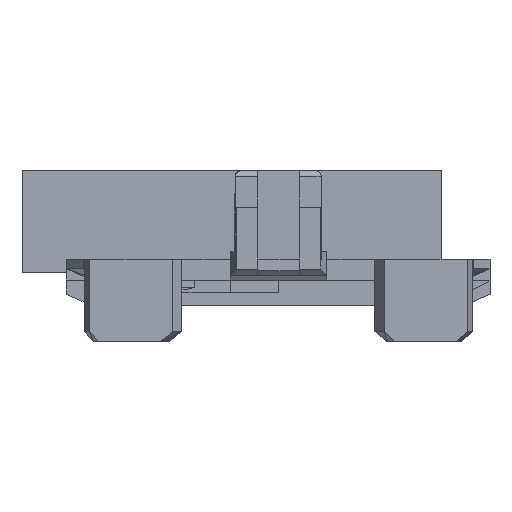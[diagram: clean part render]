
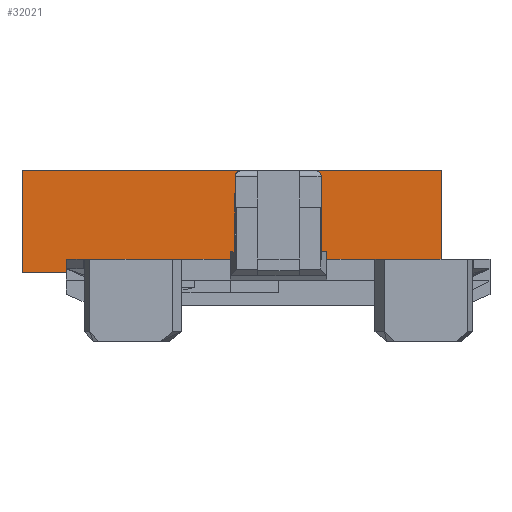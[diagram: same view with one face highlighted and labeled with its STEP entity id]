
A CAD part, left-side view. The second image highlights one B-rep face of the part: STEP entity #32021.
In plain terms, the highlighted planar face has unit normal (-1, 0, 0).
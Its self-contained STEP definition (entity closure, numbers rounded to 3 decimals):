
#32 = PLANE('',#33);
#33 = AXIS2_PLACEMENT_3D('',#34,#35,#36);
#34 = CARTESIAN_POINT('',(-40.,-25.,6.4));
#35 = DIRECTION('',(0.,0.,1.));
#36 = DIRECTION('',(1.,0.,-0.));
#1733 = PLANE('',#1734);
#1734 = AXIS2_PLACEMENT_3D('',#1735,#1736,#1737);
#1735 = CARTESIAN_POINT('',(9.042,16.475,5.37));
#1736 = DIRECTION('',(0.,1.,0.));
#1737 = DIRECTION('',(1.,0.,0.));
#1886 = VERTEX_POINT('',#1887);
#1887 = CARTESIAN_POINT('',(-8.758,-12.666,6.4));
#1901 = PLANE('',#1902);
#1902 = AXIS2_PLACEMENT_3D('',#1903,#1904,#1905);
#1903 = CARTESIAN_POINT('',(-8.758,-12.666,5.35));
#1904 = DIRECTION('',(-0.,1.,0.));
#1905 = DIRECTION('',(0.,0.,1.));
#1913 = EDGE_CURVE('',#1886,#1914,#1916,.T.);
#1914 = VERTEX_POINT('',#1915);
#1915 = CARTESIAN_POINT('',(-8.758,16.475,6.4));
#1916 = SURFACE_CURVE('',#1917,(#1921,#1928),.PCURVE_S1.);
#1917 = LINE('',#1918,#1919);
#1918 = CARTESIAN_POINT('',(-8.758,-12.666,6.4));
#1919 = VECTOR('',#1920,1.);
#1920 = DIRECTION('',(0.,1.,0.));
#1921 = PCURVE('',#32,#1922);
#1922 = DEFINITIONAL_REPRESENTATION('',(#1923),#1927);
#1923 = LINE('',#1924,#1925);
#1924 = CARTESIAN_POINT('',(31.242,12.334));
#1925 = VECTOR('',#1926,1.);
#1926 = DIRECTION('',(0.,1.));
#1927 = ( GEOMETRIC_REPRESENTATION_CONTEXT(2) 
PARAMETRIC_REPRESENTATION_CONTEXT() REPRESENTATION_CONTEXT('2D SPACE',''
  ) );
#1928 = PCURVE('',#1929,#1934);
#1929 = PLANE('',#1930);
#1930 = AXIS2_PLACEMENT_3D('',#1931,#1932,#1933);
#1931 = CARTESIAN_POINT('',(-8.758,-12.666,5.35));
#1932 = DIRECTION('',(1.,0.,-0.));
#1933 = DIRECTION('',(0.,0.,1.));
#1934 = DEFINITIONAL_REPRESENTATION('',(#1935),#1939);
#1935 = LINE('',#1936,#1937);
#1936 = CARTESIAN_POINT('',(1.05,0.));
#1937 = VECTOR('',#1938,1.);
#1938 = DIRECTION('',(0.,-1.));
#1939 = ( GEOMETRIC_REPRESENTATION_CONTEXT(2) 
PARAMETRIC_REPRESENTATION_CONTEXT() REPRESENTATION_CONTEXT('2D SPACE',''
  ) );
#28989 = PLANE('',#28990);
#28990 = AXIS2_PLACEMENT_3D('',#28991,#28992,#28993);
#28991 = CARTESIAN_POINT('',(-8.758,19.934,5.35));
#28992 = DIRECTION('',(-0.,1.,0.));
#28993 = DIRECTION('',(0.,0.,1.));
#29015 = PLANE('',#29016);
#29016 = AXIS2_PLACEMENT_3D('',#29017,#29018,#29019);
#29017 = CARTESIAN_POINT('',(-8.758,-12.666,13.3));
#29018 = DIRECTION('',(0.,0.,1.));
#29019 = DIRECTION('',(1.,0.,-0.));
#29030 = EDGE_CURVE('',#29031,#29033,#29035,.T.);
#29031 = VERTEX_POINT('',#29032);
#29032 = CARTESIAN_POINT('',(-8.758,-12.666,13.3));
#29033 = VERTEX_POINT('',#29034);
#29034 = CARTESIAN_POINT('',(-8.758,19.934,13.3));
#29035 = SURFACE_CURVE('',#29036,(#29040,#29047),.PCURVE_S1.);
#29036 = LINE('',#29037,#29038);
#29037 = CARTESIAN_POINT('',(-8.758,-12.666,13.3));
#29038 = VECTOR('',#29039,1.);
#29039 = DIRECTION('',(-0.,1.,0.));
#29040 = PCURVE('',#29015,#29041);
#29041 = DEFINITIONAL_REPRESENTATION('',(#29042),#29046);
#29042 = LINE('',#29043,#29044);
#29043 = CARTESIAN_POINT('',(0.,0.));
#29044 = VECTOR('',#29045,1.);
#29045 = DIRECTION('',(0.,1.));
#29046 = ( GEOMETRIC_REPRESENTATION_CONTEXT(2) 
PARAMETRIC_REPRESENTATION_CONTEXT() REPRESENTATION_CONTEXT('2D SPACE',''
  ) );
#29047 = PCURVE('',#1929,#29048);
#29048 = DEFINITIONAL_REPRESENTATION('',(#29049),#29053);
#29049 = LINE('',#29050,#29051);
#29050 = CARTESIAN_POINT('',(7.95,0.));
#29051 = VECTOR('',#29052,1.);
#29052 = DIRECTION('',(0.,-1.));
#29053 = ( GEOMETRIC_REPRESENTATION_CONTEXT(2) 
PARAMETRIC_REPRESENTATION_CONTEXT() REPRESENTATION_CONTEXT('2D SPACE',''
  ) );
#29210 = VERTEX_POINT('',#29211);
#29211 = CARTESIAN_POINT('',(-8.758,19.934,5.35));
#29225 = PLANE('',#29226);
#29226 = AXIS2_PLACEMENT_3D('',#29227,#29228,#29229);
#29227 = CARTESIAN_POINT('',(-8.758,-12.666,5.35));
#29228 = DIRECTION('',(0.,0.,1.));
#29229 = DIRECTION('',(1.,0.,-0.));
#29237 = EDGE_CURVE('',#29033,#29210,#29238,.T.);
#29238 = SURFACE_CURVE('',#29239,(#29243,#29250),.PCURVE_S1.);
#29239 = LINE('',#29240,#29241);
#29240 = CARTESIAN_POINT('',(-8.758,19.934,13.3));
#29241 = VECTOR('',#29242,1.);
#29242 = DIRECTION('',(0.,0.,-1.));
#29243 = PCURVE('',#28989,#29244);
#29244 = DEFINITIONAL_REPRESENTATION('',(#29245),#29249);
#29245 = LINE('',#29246,#29247);
#29246 = CARTESIAN_POINT('',(7.95,0.));
#29247 = VECTOR('',#29248,1.);
#29248 = DIRECTION('',(-1.,0.));
#29249 = ( GEOMETRIC_REPRESENTATION_CONTEXT(2) 
PARAMETRIC_REPRESENTATION_CONTEXT() REPRESENTATION_CONTEXT('2D SPACE',''
  ) );
#29250 = PCURVE('',#1929,#29251);
#29251 = DEFINITIONAL_REPRESENTATION('',(#29252),#29256);
#29252 = LINE('',#29253,#29254);
#29253 = CARTESIAN_POINT('',(7.95,-32.6));
#29254 = VECTOR('',#29255,1.);
#29255 = DIRECTION('',(-1.,0.));
#29256 = ( GEOMETRIC_REPRESENTATION_CONTEXT(2) 
PARAMETRIC_REPRESENTATION_CONTEXT() REPRESENTATION_CONTEXT('2D SPACE',''
  ) );
#29262 = EDGE_CURVE('',#29210,#29263,#29265,.T.);
#29263 = VERTEX_POINT('',#29264);
#29264 = CARTESIAN_POINT('',(-8.758,16.475,5.35));
#29265 = SURFACE_CURVE('',#29266,(#29270,#29277),.PCURVE_S1.);
#29266 = LINE('',#29267,#29268);
#29267 = CARTESIAN_POINT('',(-8.758,19.934,5.35));
#29268 = VECTOR('',#29269,1.);
#29269 = DIRECTION('',(0.,-1.,0.));
#29270 = PCURVE('',#29225,#29271);
#29271 = DEFINITIONAL_REPRESENTATION('',(#29272),#29276);
#29272 = LINE('',#29273,#29274);
#29273 = CARTESIAN_POINT('',(0.,32.6));
#29274 = VECTOR('',#29275,1.);
#29275 = DIRECTION('',(0.,-1.));
#29276 = ( GEOMETRIC_REPRESENTATION_CONTEXT(2) 
PARAMETRIC_REPRESENTATION_CONTEXT() REPRESENTATION_CONTEXT('2D SPACE',''
  ) );
#29277 = PCURVE('',#1929,#29278);
#29278 = DEFINITIONAL_REPRESENTATION('',(#29279),#29283);
#29279 = LINE('',#29280,#29281);
#29280 = CARTESIAN_POINT('',(0.,-32.6));
#29281 = VECTOR('',#29282,1.);
#29282 = DIRECTION('',(0.,1.));
#29283 = ( GEOMETRIC_REPRESENTATION_CONTEXT(2) 
PARAMETRIC_REPRESENTATION_CONTEXT() REPRESENTATION_CONTEXT('2D SPACE',''
  ) );
#32021 = ADVANCED_FACE('',(#32022),#1929,.F.);
#32022 = FACE_BOUND('',#32023,.F.);
#32023 = EDGE_LOOP('',(#32024,#32045,#32046,#32067,#32068,#32069));
#32024 = ORIENTED_EDGE('',*,*,#32025,.F.);
#32025 = EDGE_CURVE('',#1886,#29031,#32026,.T.);
#32026 = SURFACE_CURVE('',#32027,(#32031,#32038),.PCURVE_S1.);
#32027 = LINE('',#32028,#32029);
#32028 = CARTESIAN_POINT('',(-8.758,-12.666,5.4));
#32029 = VECTOR('',#32030,1.);
#32030 = DIRECTION('',(0.,0.,1.));
#32031 = PCURVE('',#1929,#32032);
#32032 = DEFINITIONAL_REPRESENTATION('',(#32033),#32037);
#32033 = LINE('',#32034,#32035);
#32034 = CARTESIAN_POINT('',(0.05,0.));
#32035 = VECTOR('',#32036,1.);
#32036 = DIRECTION('',(1.,0.));
#32037 = ( GEOMETRIC_REPRESENTATION_CONTEXT(2) 
PARAMETRIC_REPRESENTATION_CONTEXT() REPRESENTATION_CONTEXT('2D SPACE',''
  ) );
#32038 = PCURVE('',#1901,#32039);
#32039 = DEFINITIONAL_REPRESENTATION('',(#32040),#32044);
#32040 = LINE('',#32041,#32042);
#32041 = CARTESIAN_POINT('',(0.05,0.));
#32042 = VECTOR('',#32043,1.);
#32043 = DIRECTION('',(1.,0.));
#32044 = ( GEOMETRIC_REPRESENTATION_CONTEXT(2) 
PARAMETRIC_REPRESENTATION_CONTEXT() REPRESENTATION_CONTEXT('2D SPACE',''
  ) );
#32045 = ORIENTED_EDGE('',*,*,#1913,.T.);
#32046 = ORIENTED_EDGE('',*,*,#32047,.T.);
#32047 = EDGE_CURVE('',#1914,#29263,#32048,.T.);
#32048 = SURFACE_CURVE('',#32049,(#32053,#32060),.PCURVE_S1.);
#32049 = LINE('',#32050,#32051);
#32050 = CARTESIAN_POINT('',(-8.758,16.475,6.4));
#32051 = VECTOR('',#32052,1.);
#32052 = DIRECTION('',(0.,0.,-1.));
#32053 = PCURVE('',#1929,#32054);
#32054 = DEFINITIONAL_REPRESENTATION('',(#32055),#32059);
#32055 = LINE('',#32056,#32057);
#32056 = CARTESIAN_POINT('',(1.05,-29.141));
#32057 = VECTOR('',#32058,1.);
#32058 = DIRECTION('',(-1.,0.));
#32059 = ( GEOMETRIC_REPRESENTATION_CONTEXT(2) 
PARAMETRIC_REPRESENTATION_CONTEXT() REPRESENTATION_CONTEXT('2D SPACE',''
  ) );
#32060 = PCURVE('',#1733,#32061);
#32061 = DEFINITIONAL_REPRESENTATION('',(#32062),#32066);
#32062 = LINE('',#32063,#32064);
#32063 = CARTESIAN_POINT('',(-17.8,-1.03));
#32064 = VECTOR('',#32065,1.);
#32065 = DIRECTION('',(0.,1.));
#32066 = ( GEOMETRIC_REPRESENTATION_CONTEXT(2) 
PARAMETRIC_REPRESENTATION_CONTEXT() REPRESENTATION_CONTEXT('2D SPACE',''
  ) );
#32067 = ORIENTED_EDGE('',*,*,#29262,.F.);
#32068 = ORIENTED_EDGE('',*,*,#29237,.F.);
#32069 = ORIENTED_EDGE('',*,*,#29030,.F.);
